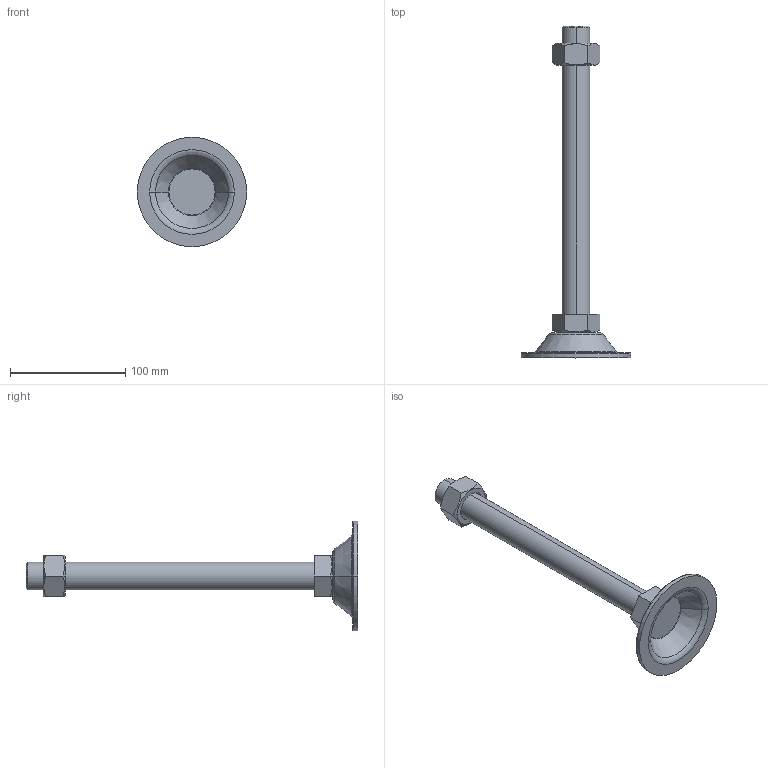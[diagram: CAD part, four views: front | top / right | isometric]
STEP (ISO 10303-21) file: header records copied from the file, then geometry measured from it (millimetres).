
FILE_DESCRIPTION (( 'STEP AP214' ), '1' );
FILE_NAME ('BL95-M24-250.step', '2021-01-06T05:42:29', ( '' ), ( '' ), 'SwSTEP 2.0', 'SolidWorks 2019', '' );
FILE_SCHEMA (( 'AUTOMOTIVE_DESIGN' ));
Length unit declared in the file: millimetre
Products named in the file (1): BL95-M24-250
Bounding box: 95 x 288 x 95 mm (x, y, z)
Volume: 181604.9 mm3; surface area: 46070.5 mm2
Topology: 3 solids, 3 shells, 53 faces, 110 edges, 66 vertices
Faces by surface type: plane 21, cone 16, torus 10, cylinder 6
Entity records: 1654 total; most frequent: CARTESIAN_POINT 464, DIRECTION 252, ORIENTED_EDGE 220, EDGE_CURVE 110, AXIS2_PLACEMENT_3D 106, VERTEX_POINT 66, EDGE_LOOP 58, FACE_OUTER_BOUND 53
